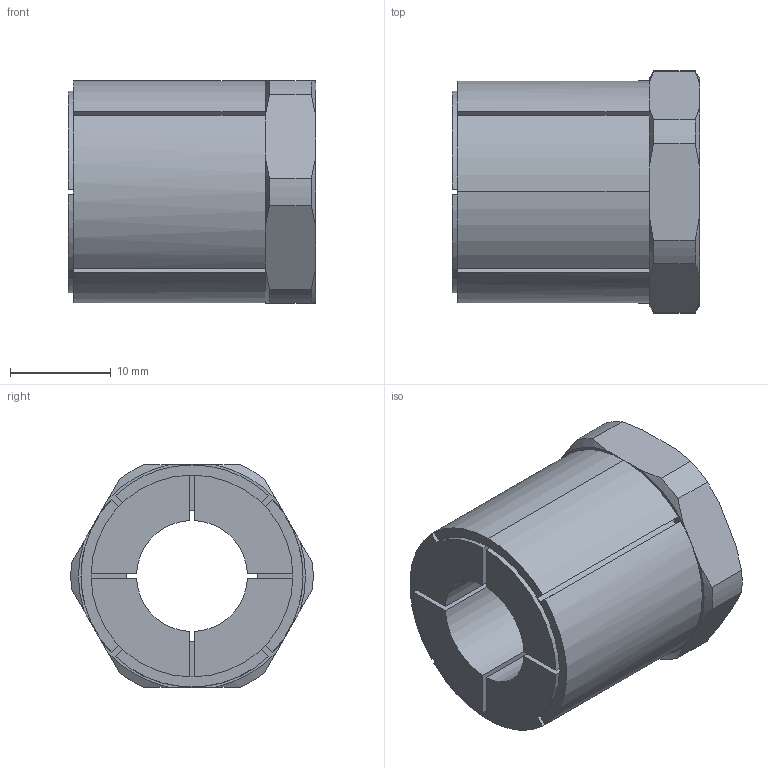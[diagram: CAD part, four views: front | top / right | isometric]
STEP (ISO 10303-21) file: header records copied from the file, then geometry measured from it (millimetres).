
FILE_DESCRIPTION (( 'STEP AP203' ), '1' );
FILE_NAME ('KBS 58 - 11 x 22.STEP', '2015-07-05T19:49:44', ( '' ), ( '' ), 'SwSTEP 2.0', 'SolidWorks 2010', '' );
FILE_SCHEMA (( 'CONFIG_CONTROL_DESIGN' ));
Length unit declared in the file: millimetre
Products named in the file (1): KBS 58 - 11 x 22
Bounding box: 24.5 x 23.98 x 22 mm (x, y, z)
Volume: 6838.9 mm3; surface area: 4193.4 mm2
Topology: 1 solids, 1 shells, 84 faces, 231 edges, 149 vertices
Faces by surface type: plane 42, cylinder 26, cone 16
Entity records: 2833 total; most frequent: CARTESIAN_POINT 601, ORIENTED_EDGE 462, DIRECTION 454, EDGE_CURVE 231, AXIS2_PLACEMENT_3D 170, VERTEX_POINT 149, VECTOR 114, LINE 114
